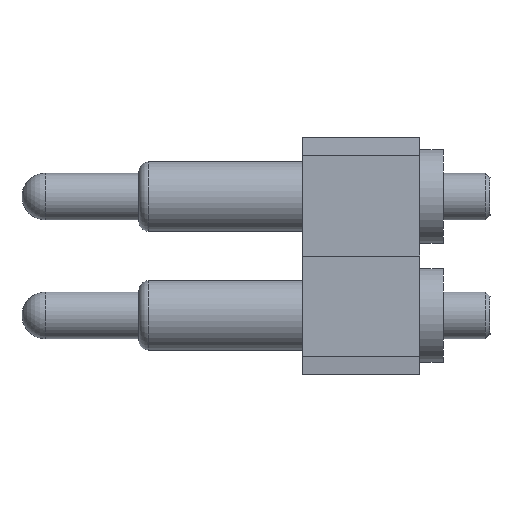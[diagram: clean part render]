
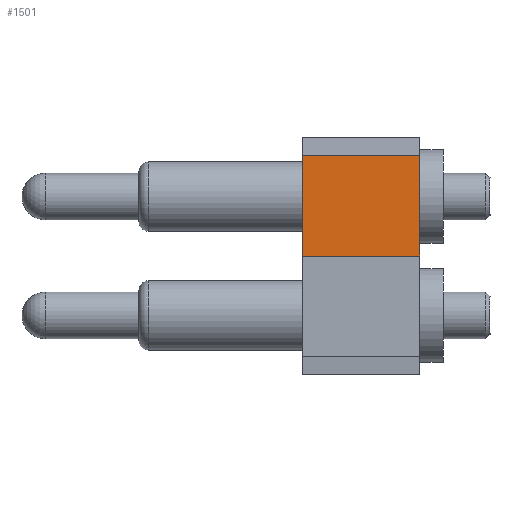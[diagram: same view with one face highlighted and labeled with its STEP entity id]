
A CAD part, left-side view. The second image highlights one B-rep face of the part: STEP entity #1501.
In plain terms, the highlighted planar face has unit normal (-1, 0, 0).
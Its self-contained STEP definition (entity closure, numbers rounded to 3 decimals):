
#353=DIRECTION('',(0.,0.,-1.));
#354=VECTOR('',#353,2.153);
#355=CARTESIAN_POINT('',(-5.094,0.,2.153));
#356=LINE('',#355,#354);
#357=DIRECTION('',(0.,-1.,0.));
#358=VECTOR('',#357,2.5);
#359=CARTESIAN_POINT('',(-5.094,2.5,2.153));
#360=LINE('',#359,#358);
#365=DIRECTION('',(0.,-1.,0.));
#366=VECTOR('',#365,2.5);
#367=CARTESIAN_POINT('',(-5.094,2.5,0.));
#368=LINE('',#367,#366);
#513=DIRECTION('',(0.,0.,-1.));
#514=VECTOR('',#513,2.153);
#515=CARTESIAN_POINT('',(-5.094,2.5,2.153));
#516=LINE('',#515,#514);
#675=CARTESIAN_POINT('',(-5.094,0.,0.));
#676=VERTEX_POINT('',#675);
#677=CARTESIAN_POINT('',(-5.094,0.,2.153));
#678=VERTEX_POINT('',#677);
#847=CARTESIAN_POINT('',(-5.094,2.5,2.153));
#848=VERTEX_POINT('',#847);
#849=CARTESIAN_POINT('',(-5.094,2.5,0.));
#850=VERTEX_POINT('',#849);
#1488=CARTESIAN_POINT('',(-5.094,0.,0.));
#1489=DIRECTION('',(-1.,0.,0.));
#1490=DIRECTION('',(0.,0.,1.));
#1491=AXIS2_PLACEMENT_3D('',#1488,#1489,#1490);
#1492=PLANE('',#1491);
#1493=ORIENTED_EDGE('',*,*,#892,.T.);
#1495=ORIENTED_EDGE('',*,*,#1494,.F.);
#1497=ORIENTED_EDGE('',*,*,#1496,.F.);
#1498=ORIENTED_EDGE('',*,*,#1480,.T.);
#1499=EDGE_LOOP('',(#1493,#1495,#1497,#1498));
#1500=FACE_OUTER_BOUND('',#1499,.F.);
#1501=ADVANCED_FACE('',(#1500),#1492,.T.);
#892=EDGE_CURVE('',#678,#676,#356,.T.);
#1480=EDGE_CURVE('',#848,#678,#360,.T.);
#1494=EDGE_CURVE('',#850,#676,#368,.T.);
#1496=EDGE_CURVE('',#848,#850,#516,.T.);
